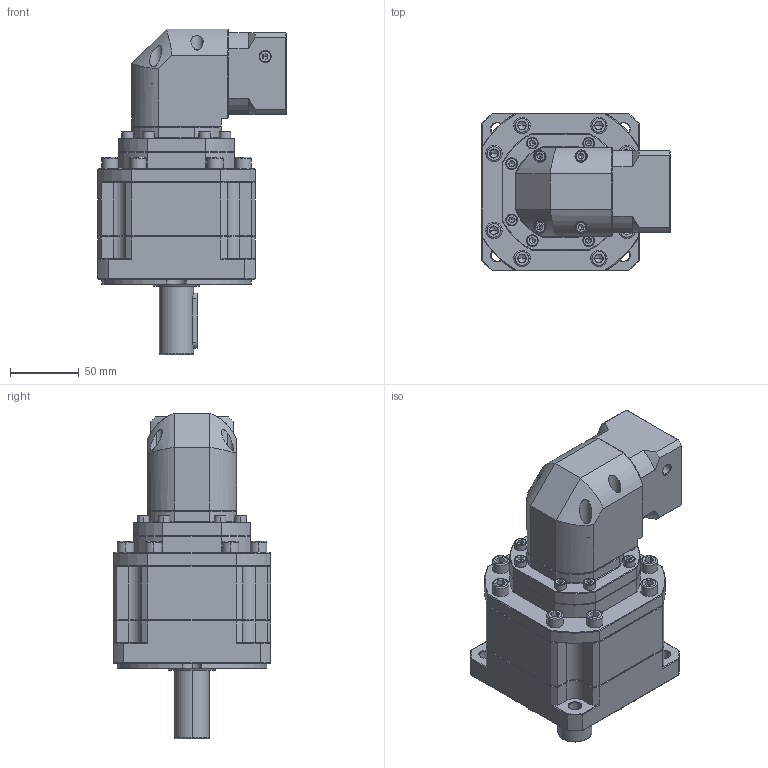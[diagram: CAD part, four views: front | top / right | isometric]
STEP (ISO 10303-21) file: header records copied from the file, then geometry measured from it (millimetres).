
FILE_DESCRIPTION (( 'STEP AP214' ), '1' );
FILE_NAME ('ZBR115A-D25-L3-P2-11-50-70-M4.step', '2023-08-26T14:04:53', ( '' ), ( '' ), 'SwSTEP 2.0', 'SolidWorks 2016', '' );
FILE_SCHEMA (( 'AUTOMOTIVE_DESIGN' ));
Length unit declared in the file: millimetre
Products named in the file (1): ZBR115A-D25-L3-P2-11-50-70-M4
Bounding box: 137.7 x 115 x 237.5 mm (x, y, z)
Volume: 1551810.9 mm3; surface area: 144681.3 mm2
Topology: 6 solids, 6 shells, 2628 faces, 6924 edges, 4416 vertices
Faces by surface type: plane 1299, cylinder 477, bspline 443, cone 389, torus 20
Entity records: 134281 total; most frequent: CARTESIAN_POINT 43940, ORIENTED_EDGE 13724, DIRECTION 11180, EDGE_CURVE 6862, VERTEX_POINT 4416, VECTOR 4344, LINE 4344, AXIS2_PLACEMENT_3D 3418
